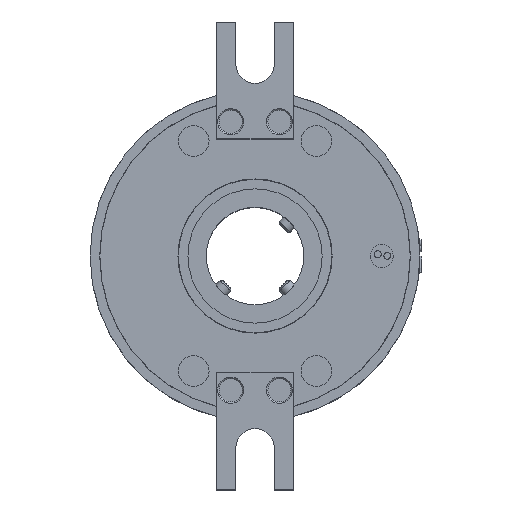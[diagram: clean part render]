
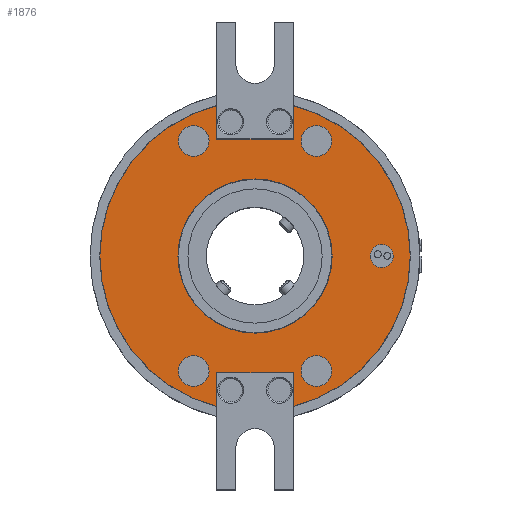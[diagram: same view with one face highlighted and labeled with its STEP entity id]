
A CAD part, top view. The second image highlights one B-rep face of the part: STEP entity #1876.
In plain terms, the highlighted planar face has unit normal (0, 0, 1).
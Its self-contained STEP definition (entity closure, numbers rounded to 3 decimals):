
#220=FACE_BOUND('',#4794,.T.);
#221=FACE_BOUND('',#4795,.T.);
#222=FACE_BOUND('',#4796,.T.);
#223=FACE_BOUND('',#4797,.T.);
#224=FACE_BOUND('',#4798,.T.);
#225=FACE_BOUND('',#4799,.T.);
#226=FACE_BOUND('',#4800,.T.);
#504=CIRCLE('',#16315,4.);
#505=CIRCLE('',#16316,4.);
#506=CIRCLE('',#16317,4.);
#507=CIRCLE('',#16318,4.);
#508=CIRCLE('',#16319,3.);
#509=CIRCLE('',#16320,40.45);
#510=CIRCLE('',#16321,40.45);
#511=CIRCLE('',#16322,20.1);
#917=PLANE('',#16323);
#1163=LINE('',#31543,#3137);
#1164=LINE('',#31546,#3138);
#1165=LINE('',#31548,#3139);
#1166=LINE('',#31552,#3140);
#1167=LINE('',#31554,#3141);
#1168=LINE('',#31556,#3142);
#1876=ADVANCED_FACE('',(#220,#221,#222,#223,#224,#225,#226),#917,.T.);
#3137=VECTOR('',#17876,1.);
#3138=VECTOR('',#17877,1.);
#3139=VECTOR('',#17878,1.);
#3140=VECTOR('',#17881,1.);
#3141=VECTOR('',#17882,1.);
#3142=VECTOR('',#17883,1.);
#4794=EDGE_LOOP('',(#8009));
#4795=EDGE_LOOP('',(#8010));
#4796=EDGE_LOOP('',(#8011));
#4797=EDGE_LOOP('',(#8012));
#4798=EDGE_LOOP('',(#8013));
#4799=EDGE_LOOP('',(#8014,#8015,#8016,#8017,#8018,#8019,#8020,#8021));
#4800=EDGE_LOOP('',(#8022));
#8009=ORIENTED_EDGE('',*,*,#13108,.T.);
#8010=ORIENTED_EDGE('',*,*,#13109,.T.);
#8011=ORIENTED_EDGE('',*,*,#13110,.T.);
#8012=ORIENTED_EDGE('',*,*,#13111,.T.);
#8013=ORIENTED_EDGE('',*,*,#13112,.T.);
#8014=ORIENTED_EDGE('',*,*,#13113,.F.);
#8015=ORIENTED_EDGE('',*,*,#13114,.F.);
#8016=ORIENTED_EDGE('',*,*,#13115,.F.);
#8017=ORIENTED_EDGE('',*,*,#13116,.F.);
#8018=ORIENTED_EDGE('',*,*,#13117,.F.);
#8019=ORIENTED_EDGE('',*,*,#13118,.F.);
#8020=ORIENTED_EDGE('',*,*,#13119,.F.);
#8021=ORIENTED_EDGE('',*,*,#13120,.F.);
#8022=ORIENTED_EDGE('',*,*,#13121,.F.);
#10982=VERTEX_POINT('',#31534);
#10983=VERTEX_POINT('',#31536);
#10984=VERTEX_POINT('',#31538);
#10985=VERTEX_POINT('',#31540);
#10986=VERTEX_POINT('',#31542);
#10987=VERTEX_POINT('',#31544);
#10988=VERTEX_POINT('',#31545);
#10989=VERTEX_POINT('',#31547);
#10990=VERTEX_POINT('',#31549);
#10991=VERTEX_POINT('',#31551);
#10992=VERTEX_POINT('',#31553);
#10993=VERTEX_POINT('',#31555);
#10994=VERTEX_POINT('',#31557);
#10995=VERTEX_POINT('',#31560);
#13108=EDGE_CURVE('',#10982,#10982,#504,.T.);
#13109=EDGE_CURVE('',#10983,#10983,#505,.T.);
#13110=EDGE_CURVE('',#10984,#10984,#506,.T.);
#13111=EDGE_CURVE('',#10985,#10985,#507,.T.);
#13112=EDGE_CURVE('',#10986,#10986,#508,.T.);
#13113=EDGE_CURVE('',#10987,#10988,#1163,.T.);
#13114=EDGE_CURVE('',#10989,#10987,#1164,.T.);
#13115=EDGE_CURVE('',#10990,#10989,#1165,.T.);
#13116=EDGE_CURVE('',#10991,#10990,#509,.T.);
#13117=EDGE_CURVE('',#10992,#10991,#1166,.T.);
#13118=EDGE_CURVE('',#10993,#10992,#1167,.T.);
#13119=EDGE_CURVE('',#10994,#10993,#1168,.T.);
#13120=EDGE_CURVE('',#10988,#10994,#510,.T.);
#13121=EDGE_CURVE('',#10995,#10995,#511,.T.);
#16315=AXIS2_PLACEMENT_3D('',#31533,#17866,#17867);
#16316=AXIS2_PLACEMENT_3D('',#31535,#17868,#17869);
#16317=AXIS2_PLACEMENT_3D('',#31537,#17870,#17871);
#16318=AXIS2_PLACEMENT_3D('',#31539,#17872,#17873);
#16319=AXIS2_PLACEMENT_3D('',#31541,#17874,#17875);
#16320=AXIS2_PLACEMENT_3D('',#31550,#17879,#17880);
#16321=AXIS2_PLACEMENT_3D('',#31558,#17884,#17885);
#16322=AXIS2_PLACEMENT_3D('',#31559,#17886,#17887);
#16323=AXIS2_PLACEMENT_3D('',#31561,#17888,#17889);
#17866=DIRECTION('',(0.,0.,-1.));
#17867=DIRECTION('',(1.,0.,0.));
#17868=DIRECTION('',(0.,0.,-1.));
#17869=DIRECTION('',(1.,0.,0.));
#17870=DIRECTION('',(0.,0.,-1.));
#17871=DIRECTION('',(1.,0.,0.));
#17872=DIRECTION('',(0.,0.,-1.));
#17873=DIRECTION('',(1.,0.,0.));
#17874=DIRECTION('',(0.,0.,-1.));
#17875=DIRECTION('',(0.707,0.707,0.));
#17876=DIRECTION('',(0.,1.,0.));
#17877=DIRECTION('',(1.,0.,0.));
#17878=DIRECTION('',(0.,-1.,0.));
#17879=DIRECTION('',(0.,0.,-1.));
#17880=DIRECTION('',(1.,0.,0.));
#17881=DIRECTION('',(0.,-1.,0.));
#17882=DIRECTION('',(-1.,0.,0.));
#17883=DIRECTION('',(0.,1.,0.));
#17884=DIRECTION('',(0.,0.,-1.));
#17885=DIRECTION('',(1.,0.,0.));
#17886=DIRECTION('',(0.,0.,1.));
#17887=DIRECTION('',(1.,0.,0.));
#17888=DIRECTION('',(0.,0.,1.));
#17889=DIRECTION('',(1.,0.,0.));
#31533=CARTESIAN_POINT('',(-16.,-30.,41.8));
#31534=CARTESIAN_POINT('',(-12.,-30.,41.8));
#31535=CARTESIAN_POINT('',(16.,-30.,41.8));
#31536=CARTESIAN_POINT('',(20.,-30.,41.8));
#31537=CARTESIAN_POINT('',(16.,30.,41.8));
#31538=CARTESIAN_POINT('',(20.,30.,41.8));
#31539=CARTESIAN_POINT('',(-16.,30.,41.8));
#31540=CARTESIAN_POINT('',(-12.,30.,41.8));
#31541=CARTESIAN_POINT('',(33.,0.,41.8));
#31542=CARTESIAN_POINT('',(35.121,2.121,41.8));
#31543=CARTESIAN_POINT('',(10.,45.75,41.8));
#31544=CARTESIAN_POINT('',(10.,30.5,41.8));
#31545=CARTESIAN_POINT('',(10.,39.194,41.8));
#31546=CARTESIAN_POINT('',(0.,30.5,41.8));
#31547=CARTESIAN_POINT('',(-10.,30.5,41.8));
#31548=CARTESIAN_POINT('',(-10.,45.75,41.8));
#31549=CARTESIAN_POINT('',(-10.,39.194,41.8));
#31550=CARTESIAN_POINT('',(0.,0.,41.8));
#31551=CARTESIAN_POINT('',(-10.,-39.194,41.8));
#31552=CARTESIAN_POINT('',(-10.,-45.75,41.8));
#31553=CARTESIAN_POINT('',(-10.,-30.5,41.8));
#31554=CARTESIAN_POINT('',(0.,-30.5,41.8));
#31555=CARTESIAN_POINT('',(10.,-30.5,41.8));
#31556=CARTESIAN_POINT('',(10.,-45.75,41.8));
#31557=CARTESIAN_POINT('',(10.,-39.194,41.8));
#31558=CARTESIAN_POINT('',(0.,0.,41.8));
#31559=CARTESIAN_POINT('',(0.,0.,41.8));
#31560=CARTESIAN_POINT('',(20.1,0.,41.8));
#31561=CARTESIAN_POINT('',(0.,0.,41.8));
